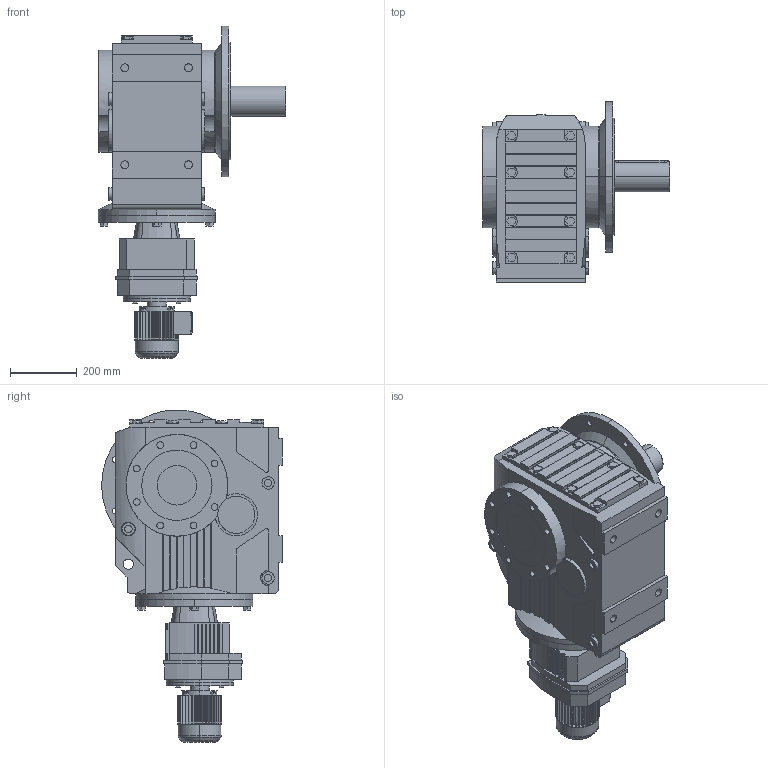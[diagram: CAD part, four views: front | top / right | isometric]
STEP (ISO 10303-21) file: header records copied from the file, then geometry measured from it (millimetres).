
FILE_DESCRIPTION(('Open CASCADE Model'),'2;1');
FILE_NAME('Open CASCADE Shape Model','2021-07-24T17:07:13',('Author'),( 'Open CASCADE'),'Open CASCADE STEP processor 6.3','Open CASCADE 6.3' ,'Unknown');
FILE_SCHEMA(('AUTOMOTIVE_DESIGN_CC2 { 1 2 10303 214 -1 1 5 4 }'));
Length unit declared in the file: millimetre
Products named in the file (6): 1_KF107R77DR63-A; KA37‵107_107.step; 萇儂_200-DR63-179-234-132-105.step; R_107_77.step; す瑩妗陑粣K_107.step; 楊擘K_107.step
Assembly tree (5 placements, depth 2):
  1_KF107R77DR63-A
    KA37‵107_107.step
    萇儂_200-DR63-179-234-132-105.step
    R_107_77.step
    す瑩妗陑粣K_107.step
    楊擘K_107.step
Bounding box: 561 x 540 x 992 mm (x, y, z)
Volume: 87651577.8 mm3; surface area: 2593560 mm2
Topology: 5 solids, 5 shells, 1134 faces, 2972 edges, 1941 vertices
Faces by surface type: plane 749, cylinder 357, cone 24, torus 4
Entity records: 84605 total; most frequent: CARTESIAN_POINT 28364, DIRECTION 9544, ORIENTED_EDGE 5940, PCURVE 5940, DEFINITIONAL_REPRESENTATION 5940, LINE 5190, VECTOR 5190, EDGE_CURVE 2970
